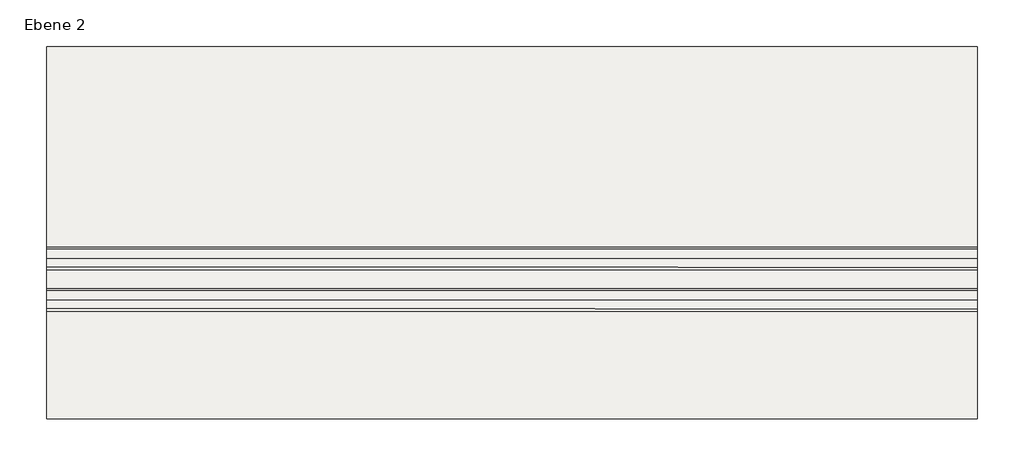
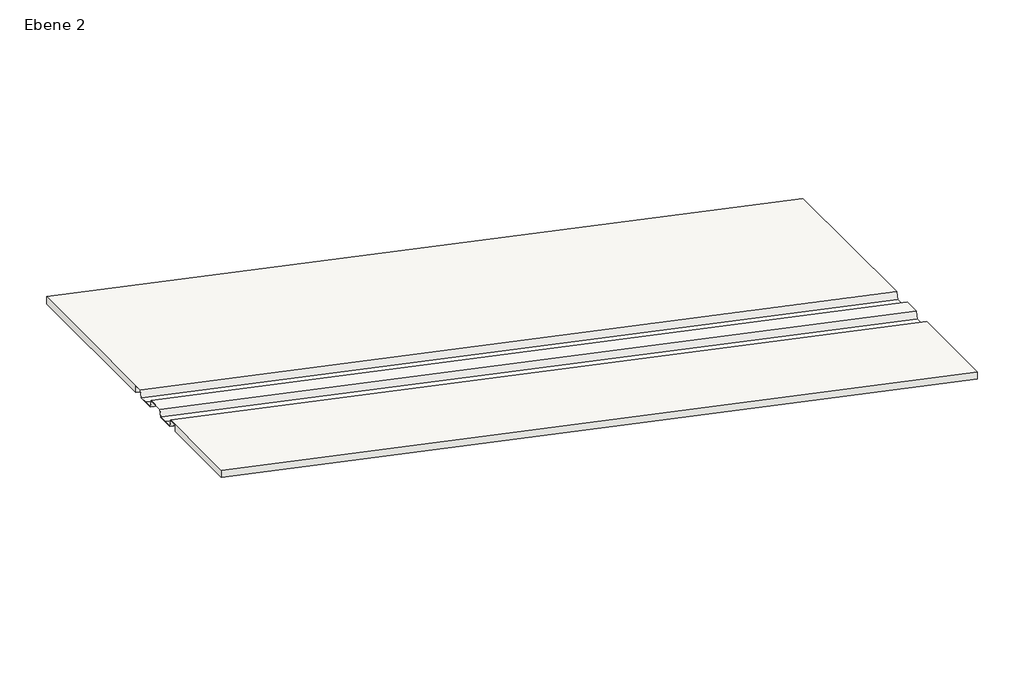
# One storey: 1 roof.
"""IFC4 building model written with IfcOpenShell, lengths in millimetres."""

from ifc_helpers import new_model, si_unit, origin, place, context, project, spatial, faceted_brep, element, save

model = new_model("IFC4")

# Units and contexts
model_context = context("Model", 3, world=origin())
ifc_project = project(units=[si_unit("LENGTHUNIT", "METRE", prefix="MILLI")], contexts=[model_context])

# Site, building, storey
site = spatial("IfcSite", under=ifc_project)
building = spatial("IfcBuilding", under=site)
storey = spatial("IfcBuildingStorey", under=building, Name="Ebene 2", Elevation=6000.0)

# Roof
placement = place(None, origin())
element("IfcRoof", 1, ObjectType="Titanzink - Eindeckung", at=placement, inside=storey, context=model_context, shape_type="Brep", body=[
    faceted_brep([(-13422.278053, 7823.464271, 6867.1574492), (6825.3772822, 7823.464271, 2563.3854493), (6825.3772822, 7823.464271, 2358.9173303), (-13422.278053, 7823.464271, 6662.6893302), (6825.3772822, -276.535729, 2563.3854493), (-13422.278053, -276.535729, 6867.1574492), (-13422.278053, -276.535729, 6662.6893302), (6825.3772822, -276.535729, 2358.9173303), (-13422.278053, 3473.464271, 6867.1574492), (6825.3772822, 3473.464271, 2563.3854493), (6825.3772822, 2070.7553854, 2563.3854493), (-13422.278053, 2070.7553854, 6867.1574492), (6825.3772822, 2973.464271, 2563.3854493), (-13422.278053, 2973.464271, 6867.1574492), (-13422.278053, 2570.7553854, 6867.1574492), (6825.3772822, 2570.7553854, 2563.3854493), (6825.3772822, 3423.464271, 2369.1407363), (6825.3772822, 3223.464271, 2369.1407363), (6825.3772822, 3023.464271, 2369.1407363), (6825.3772822, 2520.7553854, 2369.1407363), (6825.3772822, 2320.7553854, 2369.1407363), (6825.3772822, 2120.7553854, 2369.1407363), (6825.3772822, 1863.0464997, 2358.9173303), (6825.3772822, 1863.0464997, 2553.1620433), (6825.3772822, 2063.0464997, 2553.1620433), (6825.3772822, 2113.0464997, 2358.9173303), (6825.3772822, 2528.464271, 2358.9173303), (6825.3772822, 2578.464271, 2553.1620433), (6825.3772822, 2965.7553854, 2553.1620433), (6825.3772822, 3015.7553854, 2358.9173303), (6825.3772822, 3431.1731566, 2358.9173303), (6825.3772822, 3481.1731566, 2553.1620433), (6825.3772822, 3681.1731566, 2553.1620433), (6825.3772822, 3681.1731566, 2358.9173303), (-13422.278053, 3681.1731566, 6662.6893302), (-13422.278053, 1863.0464997, 6662.6893302), (-13422.278053, 3015.7553854, 6662.6893302), (-13422.278053, 3431.1731566, 6662.6893302), (-13422.278053, 2113.0464997, 6662.6893302), (-13422.278053, 2528.464271, 6662.6893302), (-13422.278053, 3681.1731566, 6856.9340433), (-13422.278053, 3481.1731566, 6856.9340433), (-13422.278053, 2965.7553854, 6856.9340433), (-13422.278053, 2578.464271, 6856.9340433), (-13422.278053, 2063.0464997, 6856.9340433), (-13422.278053, 1863.0464997, 6856.9340433), (-13422.278053, 2120.7553854, 6672.9127362), (-13422.278053, 2320.7553854, 6672.9127362), (-13422.278053, 2520.7553854, 6672.9127362), (-13422.278053, 3023.464271, 6672.9127362), (-13422.278053, 3223.464271, 6672.9127362), (-13422.278053, 3423.464271, 6672.9127362)], [[[0, 1, 2, 3]], [[4, 5, 6, 7]], [[1, 0, 8, 9]], [[5, 4, 10, 11]], [[12, 13, 14, 15]], [[2, 1, 9, 16, 17, 18, 12, 15, 19, 20, 21, 10, 4, 7, 22, 23, 24, 25, 26, 27, 28, 29, 30, 31, 32, 33]], [[3, 2, 33, 34]], [[7, 6, 35, 22]], [[30, 29, 36, 37]], [[26, 25, 38, 39]], [[0, 3, 34, 40, 41, 37, 36, 42, 43, 39, 38, 44, 45, 35, 6, 5, 11, 46, 47, 48, 14, 13, 49, 50, 51, 8]], [[51, 16, 9, 8]], [[18, 49, 13, 12]], [[28, 42, 36, 29]], [[42, 28, 27, 43]], [[16, 51, 50, 17]], [[49, 18, 17, 50]], [[31, 41, 40, 32]], [[32, 40, 34, 33]], [[41, 31, 30, 37]], [[48, 19, 15, 14]], [[21, 46, 11, 10]], [[24, 44, 38, 25]], [[44, 24, 23, 45]], [[19, 48, 47, 20]], [[46, 21, 20, 47]], [[45, 23, 22, 35]], [[43, 27, 26, 39]]]),
])

save(model, "model.ifc")
